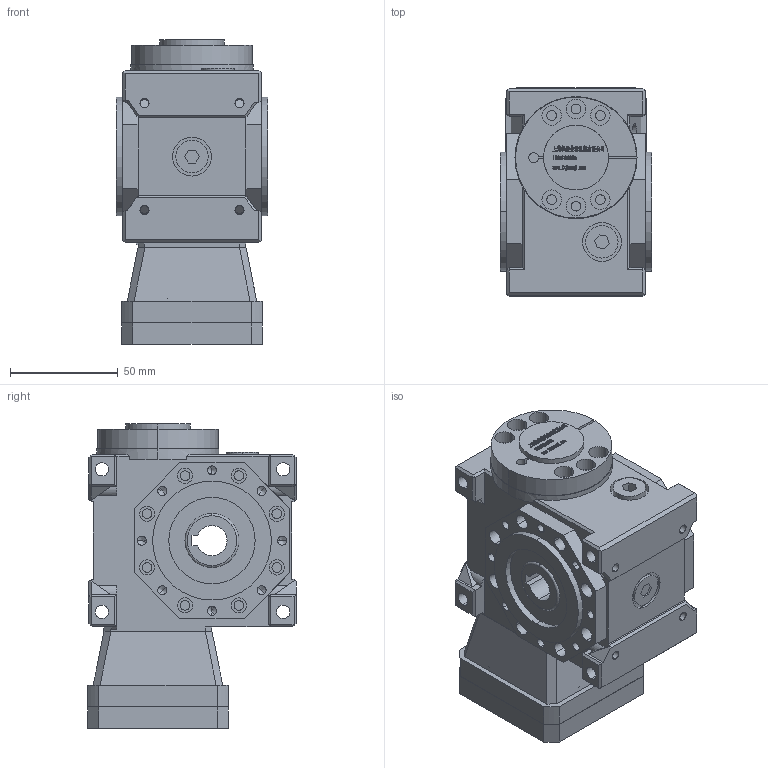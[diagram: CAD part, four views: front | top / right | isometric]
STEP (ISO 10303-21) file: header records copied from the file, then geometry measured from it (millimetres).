
FILE_DESCRIPTION (( 'STEP AP203' ), '1' );
FILE_NAME ('FXLB025-(5~90)-CR-14-50-70-M5.step', '2022-11-06T02:19:53', ( '' ), ( '' ), 'SwSTEP 2.0', 'SolidWorks 2020', '' );
FILE_SCHEMA (( 'CONFIG_CONTROL_DESIGN' ));
Length unit declared in the file: millimetre
Products named in the file (8): 錨璃106^FXLB025-(5~90)-CR-14-50-70-M5; JDLB025-CR________14.step; ______BD29-33-9-14____.step; FXLB025-(5~90)-CR-14-50-70-M5; JDLB025-ST60________.step; ST60-50-70-M6____________.step; JDLB025-CR____.step; FXLB025-(5~90)-CR-14-50-70-M5.step
Assembly tree (7 placements, depth 3):
  FXLB025-(5~90)-CR-14-50-70-M5
    FXLB025-(5~90)-CR-14-50-70-M5.step
      JDLB025-CR____.step
      JDLB025-ST60________.step
      JDLB025-CR________14.step
      ST60-50-70-M6____________.step
      ______BD29-33-9-14____.step
    錨璃106^FXLB025-(5~90)-CR-14-50-70-M5
Bounding box: 70 x 96.5 x 141.2 mm (x, y, z)
Volume: 575452.6 mm3; surface area: 128145.8 mm2
Topology: 82 solids, 86 shells, 2649 faces, 6952 edges, 4541 vertices
Faces by surface type: plane 1554, bspline 572, cylinder 419, cone 84, torus 20
Entity records: 106212 total; most frequent: CARTESIAN_POINT 43587, ORIENTED_EDGE 13780, DIRECTION 10748, EDGE_CURVE 6890, VECTOR 4742, LINE 4742, VERTEX_POINT 4541, AXIS2_PLACEMENT_3D 3003
